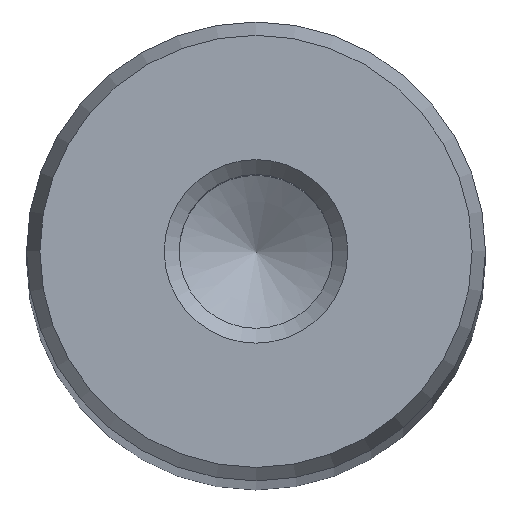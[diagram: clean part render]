
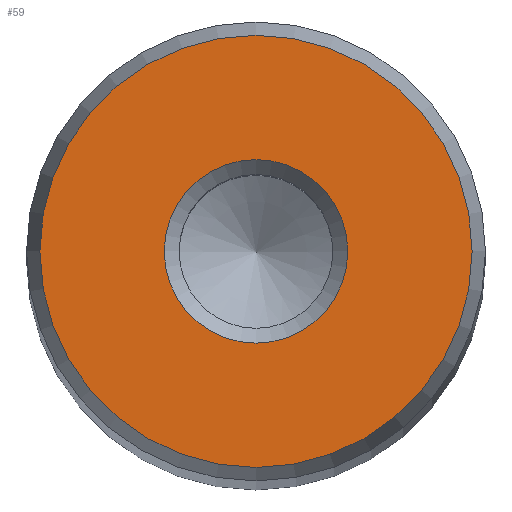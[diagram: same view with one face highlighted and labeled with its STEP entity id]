
A CAD part, top view. The second image highlights one B-rep face of the part: STEP entity #59.
In plain terms, the highlighted planar face has unit normal (0, 0, 1).
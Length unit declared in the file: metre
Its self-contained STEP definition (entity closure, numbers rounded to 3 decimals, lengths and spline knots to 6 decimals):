
#59 = ADVANCED_FACE( '', ( #124, #125 ), #126, .T. );
#124 = FACE_OUTER_BOUND( '', #183, .T. );
#125 = FACE_BOUND( '', #184, .T. );
#126 = PLANE( '', #185 );
#183 = EDGE_LOOP( '', ( #258 ) );
#184 = EDGE_LOOP( '', ( #259 ) );
#185 = AXIS2_PLACEMENT_3D( '', #260, #261, #262 );
#258 = ORIENTED_EDGE( '', *, *, #286, .T. );
#259 = ORIENTED_EDGE( '', *, *, #282, .T. );
#260 = CARTESIAN_POINT( '', ( 0., 0., 0.286 ) );
#261 = DIRECTION( '', ( 0., 0., 1. ) );
#262 = DIRECTION( '', ( 1., 0., 0. ) );
#282 = EDGE_CURVE( '', #317, #317, #318, .T. );
#286 = EDGE_CURVE( '', #323, #323, #324, .T. );
#317 = VERTEX_POINT( '', #354 );
#318 = CIRCLE( '', #355, 0.005 );
#323 = VERTEX_POINT( '', #360 );
#324 = CIRCLE( '', #361, 0.011772 );
#354 = CARTESIAN_POINT( '', ( 0.005, 0., 0.286 ) );
#355 = AXIS2_PLACEMENT_3D( '', #394, #395, #396 );
#360 = CARTESIAN_POINT( '', ( 0.011772, 0., 0.286 ) );
#361 = AXIS2_PLACEMENT_3D( '', #400, #401, #402 );
#394 = CARTESIAN_POINT( '', ( 0., 0., 0.286 ) );
#395 = DIRECTION( '', ( 0., 0., -1. ) );
#396 = DIRECTION( '', ( 1., 0., 0. ) );
#400 = CARTESIAN_POINT( '', ( 0., 0., 0.286 ) );
#401 = DIRECTION( '', ( 0., 0., 1. ) );
#402 = DIRECTION( '', ( 1., 0., 0. ) );
